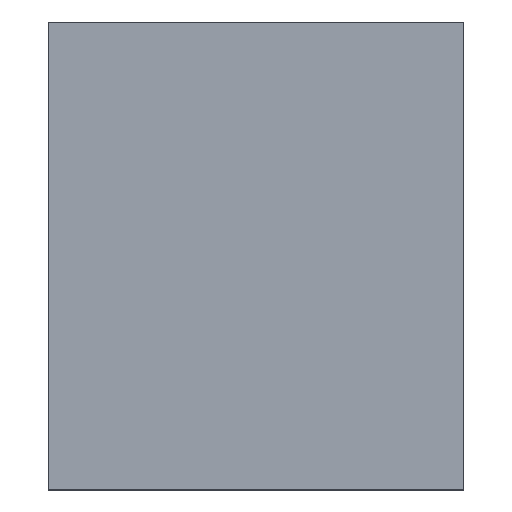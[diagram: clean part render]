
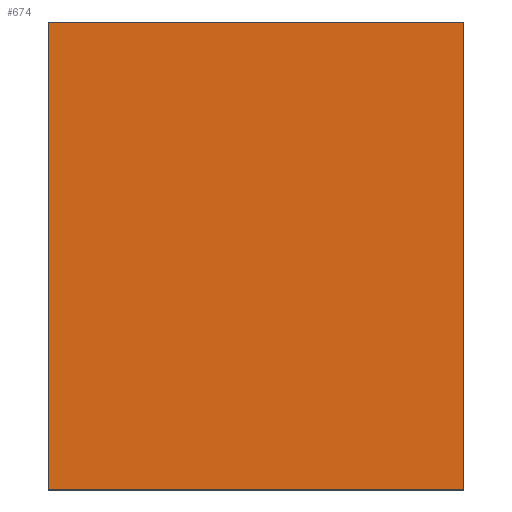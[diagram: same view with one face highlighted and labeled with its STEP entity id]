
A CAD part, top view. The second image highlights one B-rep face of the part: STEP entity #674.
In plain terms, the highlighted planar face has unit normal (0, 0, 1).
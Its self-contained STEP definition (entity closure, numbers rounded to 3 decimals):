
#523=CARTESIAN_POINT('',(-10.,-12.5,25.));
#524=VERTEX_POINT('',#523);
#525=CARTESIAN_POINT('',(-10.,10.,25.));
#526=VERTEX_POINT('',#525);
#527=CARTESIAN_POINT('',(-10.,-12.5,25.));
#528=DIRECTION('',(0.0,1.0,0.0));
#529=VECTOR('',#528,22.5);
#530=LINE('',#527,#529);
#531=EDGE_CURVE('',#524,#526,#530,.T.);
#563=CARTESIAN_POINT('',(10.,10.,25.));
#564=VERTEX_POINT('',#563);
#565=CARTESIAN_POINT('',(-10.,10.,25.));
#566=DIRECTION('',(1.0,0.0,0.0));
#567=VECTOR('',#566,20.);
#568=LINE('',#565,#567);
#569=EDGE_CURVE('',#526,#564,#568,.T.);
#597=CARTESIAN_POINT('',(10.,-12.5,25.));
#598=VERTEX_POINT('',#597);
#599=CARTESIAN_POINT('',(10.,10.,25.));
#600=DIRECTION('',(0.0,-1.0,0.0));
#601=VECTOR('',#600,22.5);
#602=LINE('',#599,#601);
#603=EDGE_CURVE('',#564,#598,#602,.T.);
#628=CARTESIAN_POINT('',(10.,-12.5,25.));
#629=DIRECTION('',(-1.0,0.0,0.0));
#630=VECTOR('',#629,20.);
#631=LINE('',#628,#630);
#632=EDGE_CURVE('',#598,#524,#631,.T.);
#663=CARTESIAN_POINT('',(0.0,-1.25,25.));
#664=DIRECTION('',(0.0,0.0,1.0));
#665=DIRECTION('',(1.0,0.0,0.0));
#666=AXIS2_PLACEMENT_3D('',#663,#664,#665);
#667=PLANE('',#666);
#668=ORIENTED_EDGE('',*,*,#531,.F.);
#669=ORIENTED_EDGE('',*,*,#632,.F.);
#670=ORIENTED_EDGE('',*,*,#603,.F.);
#671=ORIENTED_EDGE('',*,*,#569,.F.);
#672=EDGE_LOOP('',(#668,#669,#670,#671));
#673=FACE_OUTER_BOUND('',#672,.T.);
#674=ADVANCED_FACE('',(#673),#667,.T.);
